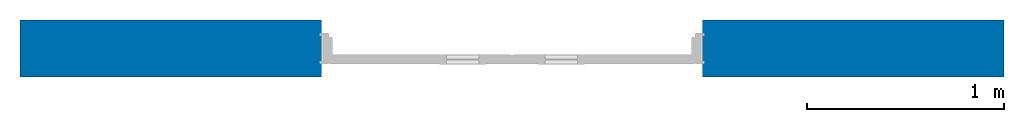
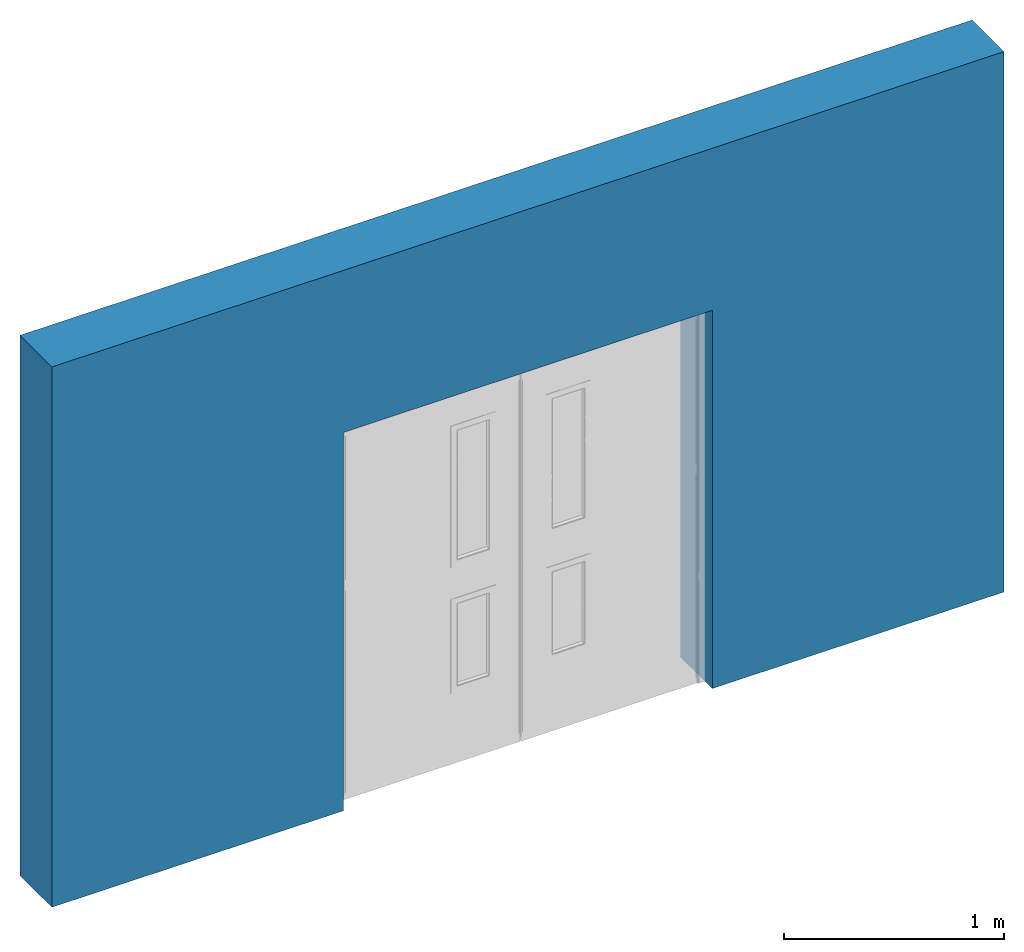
# One storey, incomplete: 1 wall, 1 opening.
"""IFC2X3 building model written with IfcOpenShell, lengths in millimetres."""

from ifc_helpers import new_model, entity, si_unit, converted_unit, derived_unit, direction, frame, frame_2d, origin, place, context, subcontext, project, spatial, rectangle, extrude, material, layer, layer_set, layer_usage, type_object, element, save


model = new_model("IFC2X3")

# Units and contexts
model_context = context("Model", 3, precision=0.01, world=origin(), true_north=direction((6.12303176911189e-17, 1.0)))
body_context = subcontext(model_context, "Body", "Model", "MODEL_VIEW")
ifc_project = project(units=[si_unit("LENGTHUNIT", "METRE", prefix="MILLI"), si_unit("AREAUNIT", "SQUARE_METRE"), si_unit("VOLUMEUNIT", "CUBIC_METRE"), converted_unit("PLANEANGLEUNIT", "DEGREE", entity("IfcRatioMeasure", 0.0174532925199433), si_unit("PLANEANGLEUNIT", "RADIAN"), dimensions=[0, 0, 0, 0, 0, 0, 0]), si_unit("MASSUNIT", "GRAM", prefix="KILO"), si_unit("TIMEUNIT", "SECOND"), si_unit("FREQUENCYUNIT", "HERTZ"), si_unit("THERMODYNAMICTEMPERATUREUNIT", "DEGREE_CELSIUS"), derived_unit("THERMALTRANSMITTANCEUNIT", [(si_unit("MASSUNIT", "GRAM", prefix="KILO"), 1), (si_unit("THERMODYNAMICTEMPERATUREUNIT", "KELVIN"), -1), (si_unit("TIMEUNIT", "SECOND"), -3)]), derived_unit("VOLUMETRICFLOWRATEUNIT", [(si_unit("LENGTHUNIT", "METRE"), 3), (si_unit("TIMEUNIT", "SECOND"), -1)]), si_unit("ELECTRICCURRENTUNIT", "AMPERE"), si_unit("ELECTRICVOLTAGEUNIT", "VOLT"), si_unit("POWERUNIT", "WATT"), si_unit("FORCEUNIT", "NEWTON", prefix="KILO"), si_unit("ILLUMINANCEUNIT", "LUX"), si_unit("LUMINOUSFLUXUNIT", "LUMEN"), si_unit("LUMINOUSINTENSITYUNIT", "CANDELA"), si_unit("PRESSUREUNIT", "PASCAL")], contexts=[model_context])

# Site, building, storey
site_placement = place(None, origin())
site = spatial("IfcSite", under=ifc_project, at=site_placement, Name="Default", CompositionType="ELEMENT")
building_placement = place(site_placement, origin())
building = spatial("IfcBuilding", under=site, at=building_placement, CompositionType="ELEMENT")
storey_placement = place(building_placement, origin())
storey = spatial("IfcBuildingStorey", under=building, at=storey_placement, Name="Level 0", CompositionType="ELEMENT", Elevation=0.0)

# Wall, opening
ifc_material_1 = material(Name="Brick, Common")
ifc_layer_1 = layer(ifc_material_1, 102.5)
ifc_material_2 = material(Name="Fiberglass Batt")
ifc_layer_2 = layer(ifc_material_2, 75.0)
ifc_material_3 = material(Name="Concrete Masonry Units")
ifc_layer_3 = layer(ifc_material_3, 100.0)
ifc_material_4 = material(Name="Gypsum Wall Board")
ifc_layer_4 = layer(ifc_material_4, 12.5)
ifc_layer_set = layer_set([ifc_layer_1, ifc_layer_2, ifc_layer_3, ifc_layer_4], Name="Basic Wall:Cav - 102 75i 100 p - Lwt")
ifc_layer_usage = layer_usage(ifc_layer_set, "AXIS2", "POSITIVE", -145.0)
wall_type = type_object("IfcWallType", Name="Basic Wall:Cav - 102 75i 100 p - Lwt", PredefinedType="STANDARD", material=ifc_layer_set)
wall_placement = place(storey_placement, frame((-2504.9500028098, -2.69454281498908, 0.0)))
wall = element("IfcWallStandardCase", 1, at=wall_placement, inside=storey, type_object=wall_type, material=ifc_layer_usage, Name="Basic Wall:Cav - 102 75i 100 p - Lwt", ObjectType="Basic Wall:Cav - 102 75i 100 p - Lwt", context=body_context, shape_type="SweptSolid", body=[
    extrude(rectangle(XDim=5000.0, YDim=290.0, at=frame_2d((2500.0, 0.0), x_axis=(-1.0, 0.0))), origin(), (0.0, 0.0, 1.0), 3000.0),
])
opening_placement = place(wall_placement, frame((2504.9500028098, 2.69454281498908, 0.0)))
element("IfcOpeningElement", 2, at=opening_placement, cuts=wall, Name="Basic Wall:Cav - 102 75i 100 p - Lwt", ObjectType="Opening", context=body_context, shape_type="SweptSolid", body=[
    extrude(rectangle(XDim=2099.99999999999, YDim=1936.0, at=frame_2d((0.0, 0.0), x_axis=(0.0, 1.0))), frame((-4.95000280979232, -152.694542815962, 1050.0), z_axis=(0.0, 1.0, 0.0), x_axis=(1.0, 0.0, 0.0)), (0.0, 0.0, 1.0), 300.000000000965),
])

save(model, "model.ifc")
